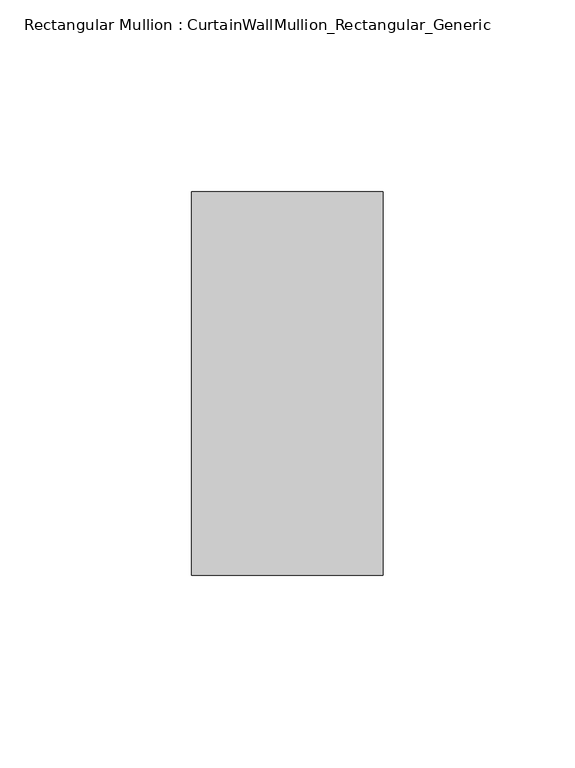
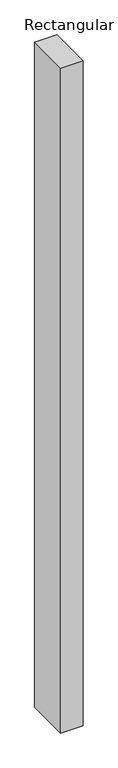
"""IFC4 building model written with IfcOpenShell, lengths in millimetres: member geometry, Rectangular Mullion : CurtainWallMullion_Rectangular_Generic."""

from ifc_helpers import new_model, si_unit, frame, origin, place, context, project, spatial, polyline, outline, extrude, source, transform, mapped, element, save


def rectangular_mullion_curtainwallmullion_rectangular_generic_35570b25(model_context):
    return source(origin(), model_context, "Body", "SweptSolid", [
        extrude(outline(polyline([(0.0, 50.0), (0.0, -50.0), (-50.0, -50.0), (-50.0, 50.0), (0.0, 50.0)])), frame((0.0, 0.0, -1560.0), z_axis=(0.0, 0.0, 1.0), x_axis=(1.0, 0.0, 0.0)), (0.0, 0.0, 1.0), 1560.0),
    ])


if __name__ == "__main__":
    model = new_model("IFC4")
    model_context = context("Model", 3, world=origin())
    ifc_project = project(units=[si_unit("LENGTHUNIT", "METRE", prefix="MILLI")], contexts=[model_context])
    site = spatial("IfcSite", under=ifc_project)
    building = spatial("IfcBuilding", under=site)
    placement = place(None, origin())
    rectangular_mullion_curtainwallmullion_rectangular_generic_shape = rectangular_mullion_curtainwallmullion_rectangular_generic_35570b25(model_context)
    element("IfcMember", 1, ObjectType="Rectangular Mullion : CurtainWallMullion_Rectangular_Generic", at=placement, inside=building, context=model_context, shape_type="MappedRepresentation", body=[
        mapped(rectangular_mullion_curtainwallmullion_rectangular_generic_shape, transform((0.0, 0.0, 0.0), x_axis=(1.0, 0.0, 0.0), y_axis=(0.0, 1.0, 0.0), z_axis=(0.0, 0.0, 1.0))),
    ])
    save(model, "model.ifc")
